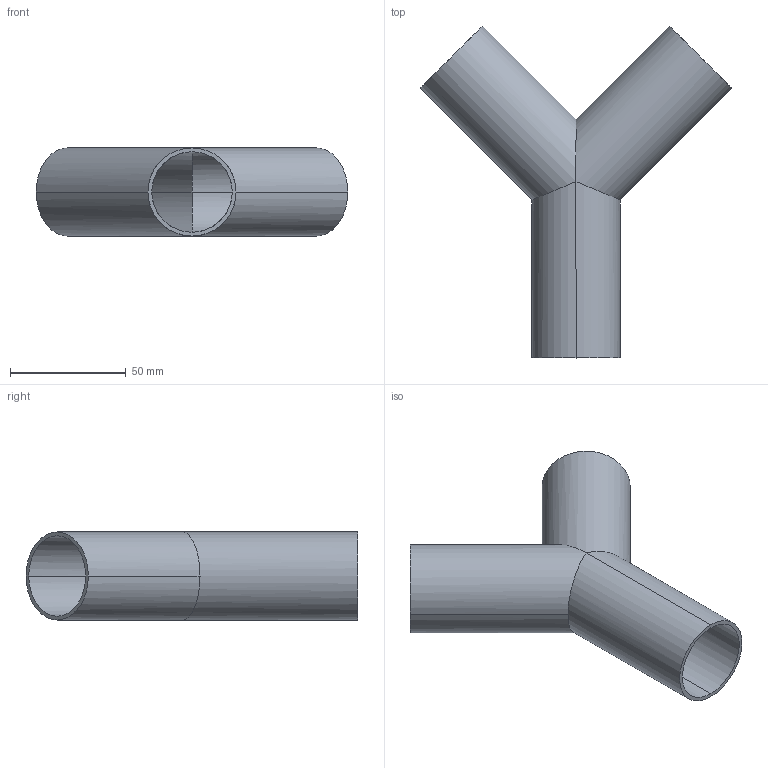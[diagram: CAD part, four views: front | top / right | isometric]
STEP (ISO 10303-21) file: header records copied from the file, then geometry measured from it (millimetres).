
FILE_DESCRIPTION (( 'STEP AP203' ), '1' );
FILE_NAME ('E28WB1.5.STEP', '2018-05-04T12:56:52', ( 'vneprd' ), ( 'Microsoft' ), 'SwSTEP 2.0', 'SolidWorks 2014', '' );
FILE_SCHEMA (( 'CONFIG_CONTROL_DESIGN' ));
Length unit declared in the file: inch
Products named in the file (1): E28WB1.5
Bounding box: 134.7 x 143.55 x 38.1 mm (x, y, z)
Volume: 39204.2 mm3; surface area: 48052 mm2
Topology: 1 solids, 1 shells, 15 faces, 36 edges, 22 vertices
Faces by surface type: cylinder 12, plane 3
Entity records: 521 total; most frequent: CARTESIAN_POINT 110, ORIENTED_EDGE 72, DIRECTION 68, EDGE_CURVE 36, AXIS2_PLACEMENT_3D 28, VERTEX_POINT 22, EDGE_LOOP 18, ADVANCED_FACE 15
